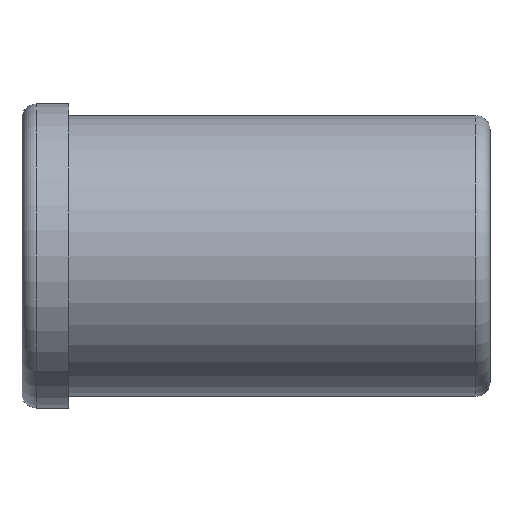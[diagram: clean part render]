
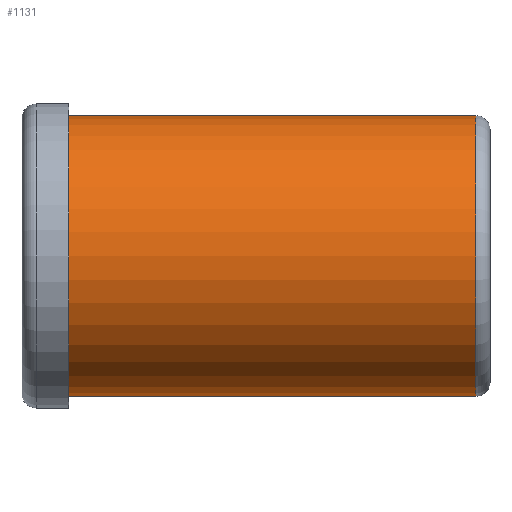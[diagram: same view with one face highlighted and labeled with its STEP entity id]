
A CAD part, front view. The second image highlights one B-rep face of the part: STEP entity #1131.
In plain terms, the highlighted cylindrical face has radius 30 mm (diameter 60 mm), a partial arc.
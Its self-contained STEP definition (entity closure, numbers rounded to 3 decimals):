
#729=CARTESIAN_POINT('',(97.,-1.,
-29.983));
#739=CARTESIAN_POINT('',(97.,0.,0.));
#740=DIRECTION('',(1.,0.,0.));
#741=DIRECTION('',(0.,-0.033,0.999));
#742=AXIS2_PLACEMENT_3D('',#739,#740,#741);
#752=CARTESIAN_POINT('',(97.,-1.,29.983));
#754=DIRECTION('',(1.,0.,0.));
#755=VECTOR('',#754,87.);
#756=CARTESIAN_POINT('',(10.,-1.,-29.983));
#757=LINE('',#756,#755);
#758=DIRECTION('',(-1.,0.,0.));
#759=VECTOR('',#758,87.);
#760=CARTESIAN_POINT('',(97.,-1.,29.983));
#761=LINE('',#760,#759);
#767=CARTESIAN_POINT('',(10.,0.,0.));
#768=DIRECTION('',(-1.,0.,0.));
#769=DIRECTION('',(0.,-0.033,-0.999));
#770=AXIS2_PLACEMENT_3D('',#767,#768,#769);
#947=CARTESIAN_POINT('',(10.,-1.,29.983));
#949=VERTEX_POINT('',#947);
#954=CARTESIAN_POINT('',(10.,-1.,-29.983));
#955=VERTEX_POINT('',#954);
#963=VERTEX_POINT('',#752);
#971=VERTEX_POINT('',#729);
#1119=CARTESIAN_POINT('',(0.,0.,0.));
#1120=DIRECTION('',(-1.,0.,0.));
#1121=DIRECTION('',(0.,0.,-1.));
#1122=AXIS2_PLACEMENT_3D('',#1119,#1120,#1121);
#1123=CYLINDRICAL_SURFACE('',#1122,30.);
#1124=ORIENTED_EDGE('',*,*,#1026,.F.);
#1126=ORIENTED_EDGE('',*,*,#1125,.T.);
#1127=ORIENTED_EDGE('',*,*,#1061,.F.);
#1128=ORIENTED_EDGE('',*,*,#1112,.T.);
#1129=EDGE_LOOP('',(#1124,#1126,#1127,#1128));
#1130=FACE_OUTER_BOUND('',#1129,.F.);
#1131=ADVANCED_FACE('',(#1130),#1123,.T.);
#743=CIRCLE('',#742,30.);
#771=CIRCLE('',#770,30.);
#1026=EDGE_CURVE('',#955,#971,#757,.T.);
#1061=EDGE_CURVE('',#963,#949,#761,.T.);
#1112=EDGE_CURVE('',#963,#971,#743,.T.);
#1125=EDGE_CURVE('',#955,#949,#771,.T.);
